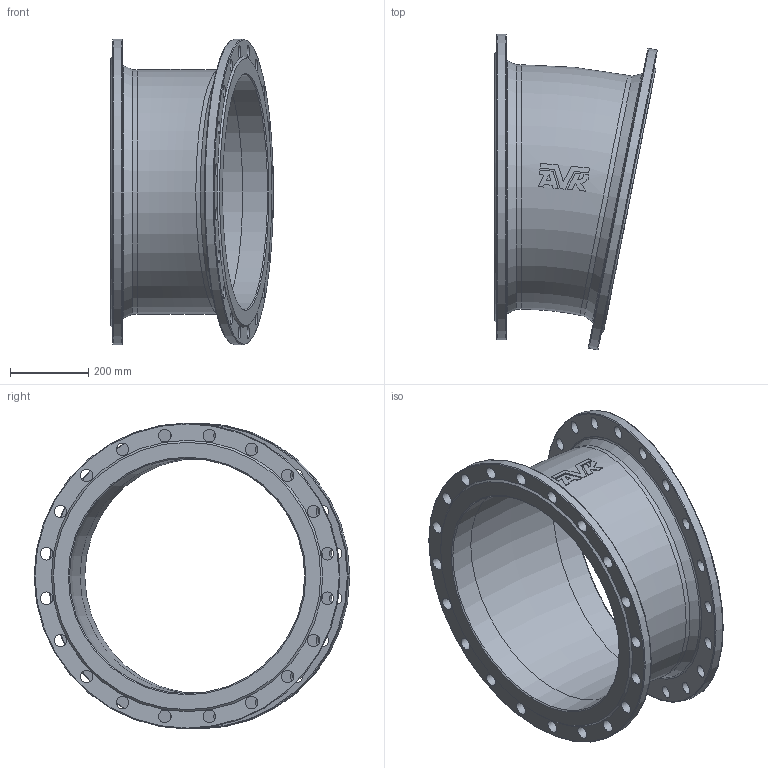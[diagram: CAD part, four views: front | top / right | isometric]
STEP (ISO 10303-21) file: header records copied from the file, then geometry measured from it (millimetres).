
FILE_DESCRIPTION (( 'STEP AP203' ), '1' );
FILE_NAME ('O_712_0110_DN600_0X_REV01.step', '2024-08-15T09:13:09', ( '' ), ( '' ), 'SwSTEP 2.0', 'SolidWorks 2022', '' );
FILE_SCHEMA (( 'CONFIG_CONTROL_DESIGN' ));
Length unit declared in the file: millimetre
Products named in the file (1): O_712_0110_DN600_0X_REV01
Bounding box: 415.45 x 805.09 x 780 mm (x, y, z)
Volume: 17061066.9 mm3; surface area: 2067870.4 mm2
Topology: 1 solids, 1 shells, 107 faces, 322 edges, 225 vertices
Faces by surface type: cylinder 48, plane 41, torus 12, cone 6
Full cylindrical faces by diameter (mm): 32 x40, 600 x2, 624 x2, 780 x2
Entity records: 3374 total; most frequent: CARTESIAN_POINT 801, DIRECTION 465, ORIENTED_EDGE 434, EDGE_LOOP 257, EDGE_CURVE 217, AXIS2_PLACEMENT_3D 214, VERTEX_POINT 180, FACE_OUTER_BOUND 161
